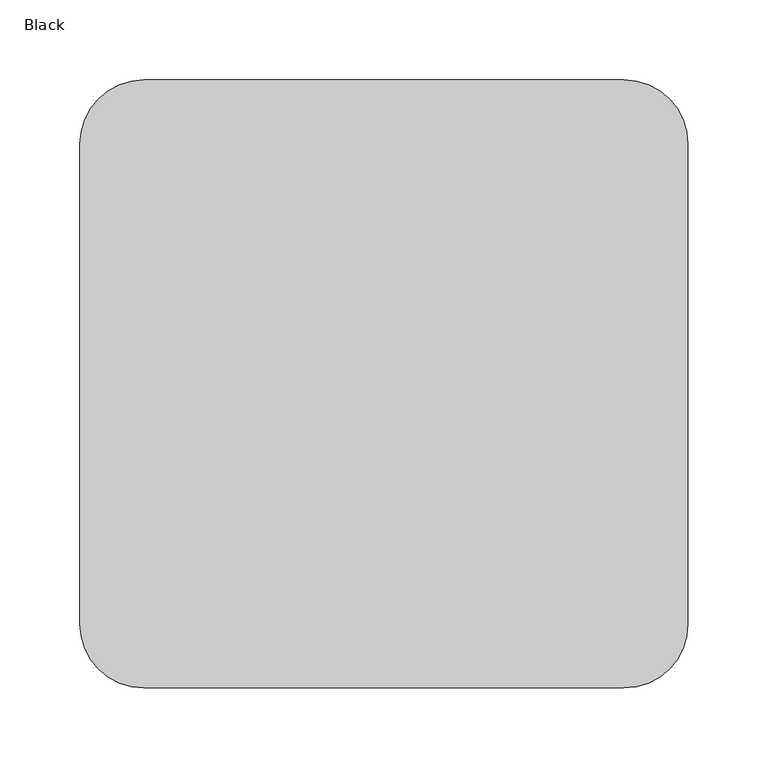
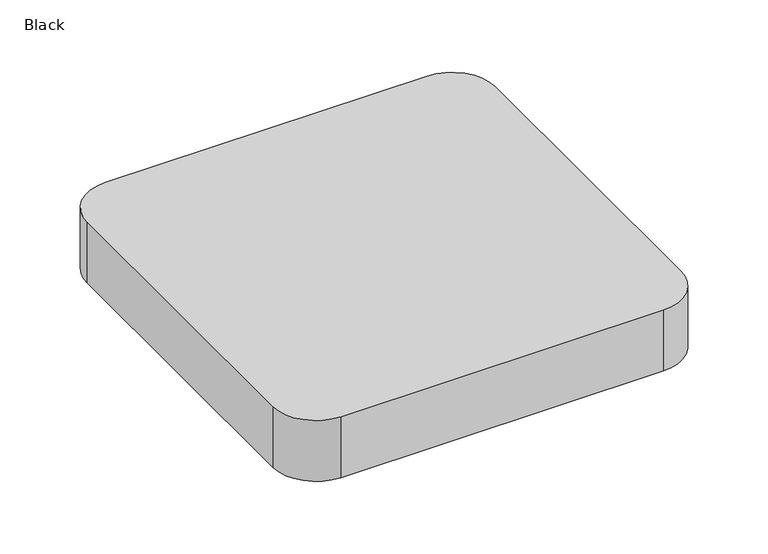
"""IFC4 building model written with IfcOpenShell, lengths in millimetres: furniture geometry, Puffet : Black."""

from ifc_helpers import new_model, si_unit, point, frame_2d, origin, origin_with_axes, place, context, project, spatial, polyline, circle_curve, trimmed, segment, composite_curve, outline, extrude, source, transform, mapped, element, save


def black_e0d9a97f(model_context):
    return source(origin(), model_context, "Body", "SweptSolid", [
        extrude(outline(composite_curve([segment(trimmed(circle_curve(frame_2d((150.0, 139.9999994)), 40.0), [point((150.0, 179.9999994))], [point((190.0, 139.9999994))], False, "CARTESIAN"), True, "CONTINUOUS"), segment(polyline([(190.0, 139.9999994), (190.0, -160.0000006)]), True, "CONTINUOUS"), segment(trimmed(circle_curve(frame_2d((150.0, -160.0000006)), 40.0), [point((190.0, -160.0000006))], [point((150.0, -200.0000006))], False, "CARTESIAN"), True, "CONTINUOUS"), segment(polyline([(150.0, -200.0000006), (-150.0, -200.0000006)]), True, "CONTINUOUS"), segment(trimmed(circle_curve(frame_2d((-150.0, -160.0000006)), 40.0), [point((-150.0, -200.0000006))], [point((-190.0, -160.0000006))], False, "CARTESIAN"), True, "CONTINUOUS"), segment(polyline([(-190.0, -160.0000006), (-190.0, 139.9999994)]), True, "CONTINUOUS"), segment(trimmed(circle_curve(frame_2d((-150.0, 139.9999994)), 40.0), [point((-190.0, 139.9999994))], [point((-150.0, 179.9999994))], False, "CARTESIAN"), True, "CONTINUOUS"), segment(polyline([(-150.0, 179.9999994), (150.0, 179.9999994)]), True, "CONTINUOUS")], self_intersect=False)), origin_with_axes(), (0.0, 0.0, 1.0), 60.0),
    ])


if __name__ == "__main__":
    model = new_model("IFC4")
    model_context = context("Model", 3, world=origin())
    ifc_project = project(units=[si_unit("LENGTHUNIT", "METRE", prefix="MILLI")], contexts=[model_context])
    site = spatial("IfcSite", under=ifc_project)
    building = spatial("IfcBuilding", under=site)
    placement = place(None, origin())
    black_shape = black_e0d9a97f(model_context)
    element("IfcFurniture", 1, ObjectType="Puffet : Black", at=placement, inside=building, context=model_context, shape_type="MappedRepresentation", body=[
        mapped(black_shape, transform((0.0, 0.0, 0.0), x_axis=(1.0, 0.0, 0.0), y_axis=(0.0, 1.0, 0.0), z_axis=(0.0, 0.0, 1.0))),
    ])
    save(model, "model.ifc")
